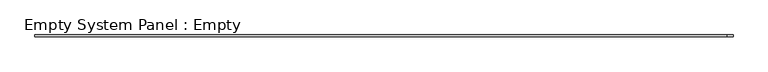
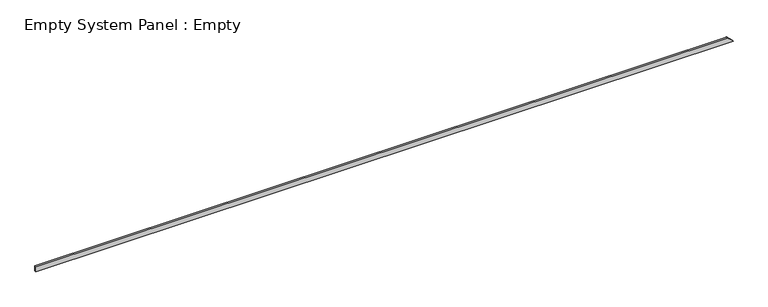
"""IFC4 building model written with IfcOpenShell, lengths in millimetres: plate geometry, Empty System Panel : Empty."""

from ifc_helpers import new_model, si_unit, frame, origin, place, context, project, spatial, polyline, outline, extrude, source, transform, mapped, element, save


def empty_system_panel_empty_91b1715d(model_context):
    return source(origin(), model_context, "Body", "SweptSolid", [
        extrude(outline(polyline([(0.0, -19913.4549319), (0.0, 19913.4549319), (330.0, 19587.1059355), (310.0, 19587.1059355), (310.0, -19913.4549319), (0.0, -19913.4549319)])), frame((0.0, -50.0, 0.0), z_axis=(0.0, 1.0, 0.0), x_axis=(0.0, 0.0, 1.0)), (0.0, 0.0, 1.0), 100.0),
    ])


if __name__ == "__main__":
    model = new_model("IFC4")
    model_context = context("Model", 3, world=origin())
    ifc_project = project(units=[si_unit("LENGTHUNIT", "METRE", prefix="MILLI")], contexts=[model_context])
    site = spatial("IfcSite", under=ifc_project)
    building = spatial("IfcBuilding", under=site)
    placement = place(None, origin())
    empty_system_panel_empty_shape = empty_system_panel_empty_91b1715d(model_context)
    element("IfcPlate", 1, ObjectType="Empty System Panel : Empty", at=placement, inside=building, context=model_context, shape_type="MappedRepresentation", body=[
        mapped(empty_system_panel_empty_shape, transform((0.0, 0.0, 0.0), x_axis=(1.0, 0.0, 0.0), y_axis=(0.0, 1.0, 0.0), z_axis=(0.0, 0.0, 1.0))),
    ])
    save(model, "model.ifc")
